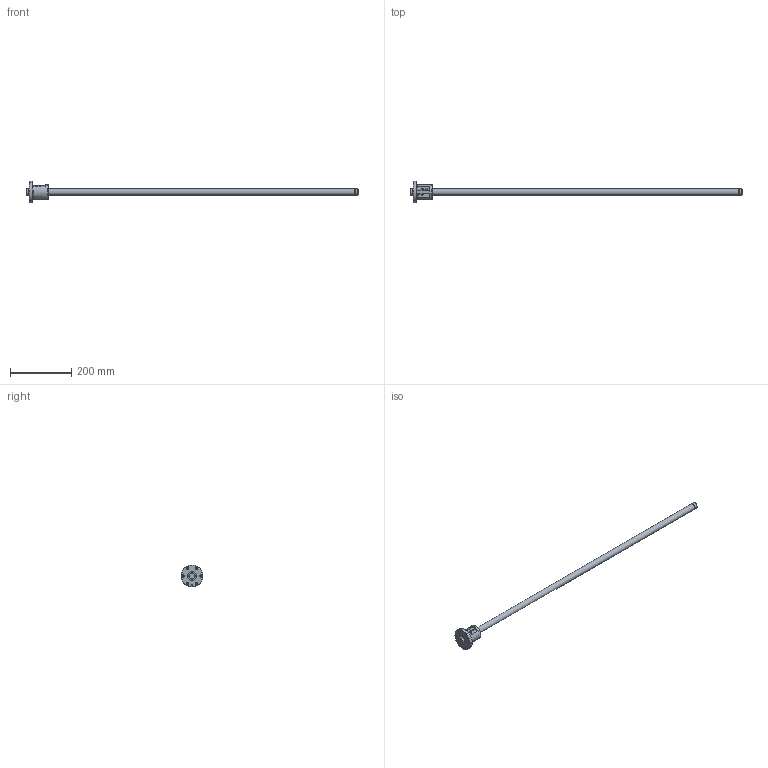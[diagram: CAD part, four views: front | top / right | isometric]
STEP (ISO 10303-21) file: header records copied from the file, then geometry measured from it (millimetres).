
FILE_DESCRIPTION( ( 'STEP AP203' ), ' ' );
FILE_NAME( 'p:/temp/worker_49/1856_1980/app_83_12018011811201668943245818fa3fd_000000_00_00_000000/format_0/BIF2006-5RRG0+1082LC2_10000.stp', '2018-01-18T10:20:17', ( '' ), ( '' ), ' ', 'PARTsolutions', ' ' );
FILE_SCHEMA( ( 'CONFIG_CONTROL_DESIGN' ) );
Length unit declared in the file: millimetre
Products named in the file (3): BIF2006-5RRG0+1082LC2_10000; _BIF 2006-5RR1000500 Shaft; _BIF 2006-5RR Nut
Assembly tree (2 placements, depth 2):
  BIF2006-5RRG0+1082LC2_10000
    _BIF 2006-5RR1000500 Shaft
    _BIF 2006-5RR Nut
Bounding box: 1082 x 71 x 71 mm (x, y, z)
Volume: 443696.3 mm3; surface area: 92611.8 mm2
Topology: 2 solids, 2 shells, 82 faces, 178 edges, 113 vertices
Faces by surface type: cylinder 39, plane 31, cone 8, torus 4
Full cylindrical faces by diameter (mm): 3.35 x2, 4.4 x4, 4.917 x1, 5.5 x6, 9.5 x6, 19.5 x2, 20 x4, 28.8 x2, 48 x1, 71 x1
Entity records: 2456 total; most frequent: CARTESIAN_POINT 665, DIRECTION 376, ORIENTED_EDGE 262, AXIS2_PLACEMENT_3D 172, EDGE_LOOP 156, EDGE_CURVE 131, FACE_OUTER_BOUND 111, VERTEX_POINT 103
